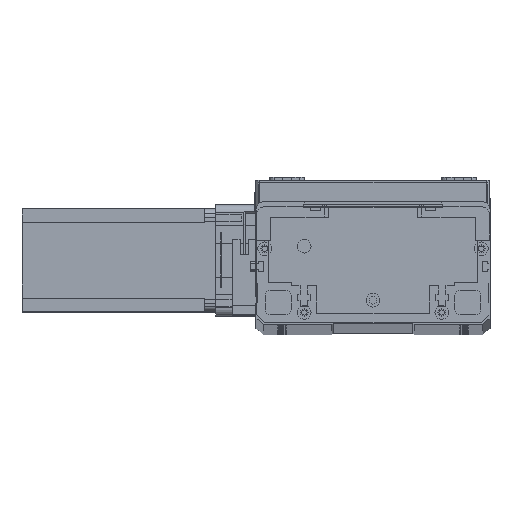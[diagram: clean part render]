
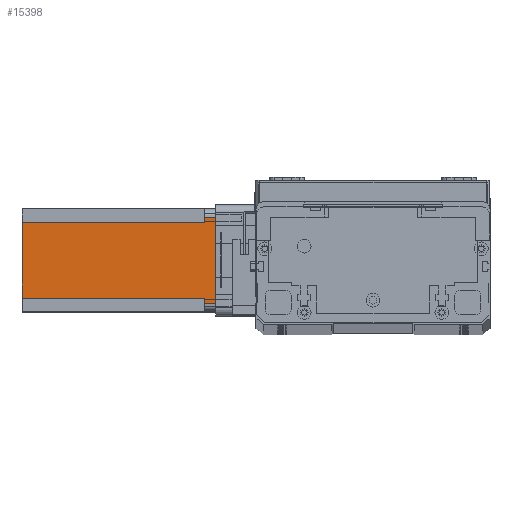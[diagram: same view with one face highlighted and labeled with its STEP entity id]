
A CAD part, top view. The second image highlights one B-rep face of the part: STEP entity #15398.
In plain terms, the highlighted planar face has unit normal (0, 0, 1) as drawn and (0, -1, 0) by its records, which use the part's own axes.
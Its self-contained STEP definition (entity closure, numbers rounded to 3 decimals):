
#1110 = CARTESIAN_POINT ( 'NONE',  ( 8., 0., -112.5 ) ) ;
#1306 = ORIENTED_EDGE ( 'NONE', *, *, #6097, .F. ) ;
#1986 = DIRECTION ( 'NONE',  ( 1., 0., 0. ) ) ;
#2185 = DIRECTION ( 'NONE',  ( 0., 0., -1. ) ) ;
#2936 = ORIENTED_EDGE ( 'NONE', *, *, #4885, .T. ) ;
#3026 = CARTESIAN_POINT ( 'NONE',  ( 8., 0., -6.5 ) ) ;
#3155 = VECTOR ( 'NONE', #26584, 1000. ) ;
#3520 = LINE ( 'NONE', #12028, #10070 ) ;
#4799 = EDGE_CURVE ( 'NONE', #5365, #23999, #13862, .T. ) ;
#4885 = EDGE_CURVE ( 'NONE', #23999, #11596, #21290, .T. ) ;
#5181 = EDGE_CURVE ( 'NONE', #13761, #7369, #3520, .T. ) ;
#5365 = VERTEX_POINT ( 'NONE', #27396 ) ;
#5385 = EDGE_CURVE ( 'NONE', #24250, #7369, #9005, .T. ) ;
#5552 = EDGE_CURVE ( 'NONE', #10355, #24250, #10740, .T. ) ;
#5587 = VERTEX_POINT ( 'NONE', #9403 ) ;
#5768 = EDGE_CURVE ( 'NONE', #10355, #5587, #16165, .T. ) ;
#6097 = EDGE_CURVE ( 'NONE', #5365, #5587, #16444, .T. ) ;
#6930 = CARTESIAN_POINT ( 'NONE',  ( 5., 0., 0. ) ) ;
#7327 = VECTOR ( 'NONE', #26492, 1000. ) ;
#7369 = VERTEX_POINT ( 'NONE', #9163 ) ;
#7733 = VECTOR ( 'NONE', #1986, 1000. ) ;
#8237 = CARTESIAN_POINT ( 'NONE',  ( 55., 0., -112.5 ) ) ;
#8407 = LINE ( 'NONE', #25773, #7733 ) ;
#8821 = DIRECTION ( 'NONE',  ( 0., 0., 1. ) ) ;
#9005 = LINE ( 'NONE', #26253, #3155 ) ;
#9163 = CARTESIAN_POINT ( 'NONE',  ( 5., 0., -6.5 ) ) ;
#9403 = CARTESIAN_POINT ( 'NONE',  ( 52., 0., -112.5 ) ) ;
#10070 = VECTOR ( 'NONE', #12310, 1000. ) ;
#10110 = ORIENTED_EDGE ( 'NONE', *, *, #5385, .F. ) ;
#10114 = ORIENTED_EDGE ( 'NONE', *, *, #23334, .F. ) ;
#10355 = VERTEX_POINT ( 'NONE', #1110 ) ;
#10428 = DIRECTION ( 'NONE',  ( 0., 0., 1. ) ) ;
#10740 = LINE ( 'NONE', #11133, #27147 ) ;
#10979 = PLANE ( 'NONE',  #19561 ) ;
#11133 = CARTESIAN_POINT ( 'NONE',  ( 8., 0., -112.5 ) ) ;
#11596 = VERTEX_POINT ( 'NONE', #21692 ) ;
#12028 = CARTESIAN_POINT ( 'NONE',  ( 5., 0., -112.5 ) ) ;
#12310 = DIRECTION ( 'NONE',  ( 0., 0., -1. ) ) ;
#12405 = CARTESIAN_POINT ( 'NONE',  ( 52., 0., -6.5 ) ) ;
#13245 = CARTESIAN_POINT ( 'NONE',  ( 55., 0., -6.5 ) ) ;
#13761 = VERTEX_POINT ( 'NONE', #6930 ) ;
#13862 = LINE ( 'NONE', #12405, #7327 ) ;
#13889 = DIRECTION ( 'NONE',  ( 0., 0., -1. ) ) ;
#14366 = CARTESIAN_POINT ( 'NONE',  ( 52., 0., -112.5 ) ) ;
#15341 = DIRECTION ( 'NONE',  ( 0., -1., 0. ) ) ;
#15398 = ADVANCED_FACE ( 'NONE', ( #25457 ), #10979, .T. ) ;
#15469 = VECTOR ( 'NONE', #24360, 1000. ) ;
#15746 = ORIENTED_EDGE ( 'NONE', *, *, #4799, .T. ) ;
#15747 = VECTOR ( 'NONE', #13889, 1000. ) ;
#16165 = LINE ( 'NONE', #24382, #15469 ) ;
#16444 = LINE ( 'NONE', #14366, #15747 ) ;
#16519 = ORIENTED_EDGE ( 'NONE', *, *, #5181, .T. ) ;
#19561 = AXIS2_PLACEMENT_3D ( 'NONE', #27984, #15341, #2185 ) ;
#21290 = LINE ( 'NONE', #8237, #27516 ) ;
#21692 = CARTESIAN_POINT ( 'NONE',  ( 55., 0., 0. ) ) ;
#23334 = EDGE_CURVE ( 'NONE', #13761, #11596, #8407, .T. ) ;
#23437 = ORIENTED_EDGE ( 'NONE', *, *, #5768, .T. ) ;
#23999 = VERTEX_POINT ( 'NONE', #13245 ) ;
#24250 = VERTEX_POINT ( 'NONE', #3026 ) ;
#24343 = EDGE_LOOP ( 'NONE', ( #15746, #2936, #10114, #16519, #10110, #26835, #23437, #1306 ) ) ;
#24360 = DIRECTION ( 'NONE',  ( 1., 0., 0. ) ) ;
#24382 = CARTESIAN_POINT ( 'NONE',  ( 0., 0., -112.5 ) ) ;
#25457 = FACE_OUTER_BOUND ( 'NONE', #24343, .T. ) ;
#25773 = CARTESIAN_POINT ( 'NONE',  ( 0., 0., 0. ) ) ;
#26253 = CARTESIAN_POINT ( 'NONE',  ( 8., 0., -6.5 ) ) ;
#26492 = DIRECTION ( 'NONE',  ( 1., 0., 0. ) ) ;
#26584 = DIRECTION ( 'NONE',  ( -1., 0., 0. ) ) ;
#26835 = ORIENTED_EDGE ( 'NONE', *, *, #5552, .F. ) ;
#27147 = VECTOR ( 'NONE', #10428, 1000. ) ;
#27396 = CARTESIAN_POINT ( 'NONE',  ( 52., 0., -6.5 ) ) ;
#27516 = VECTOR ( 'NONE', #8821, 1000. ) ;
#27984 = CARTESIAN_POINT ( 'NONE',  ( 0., 0., -112.5 ) ) ;
